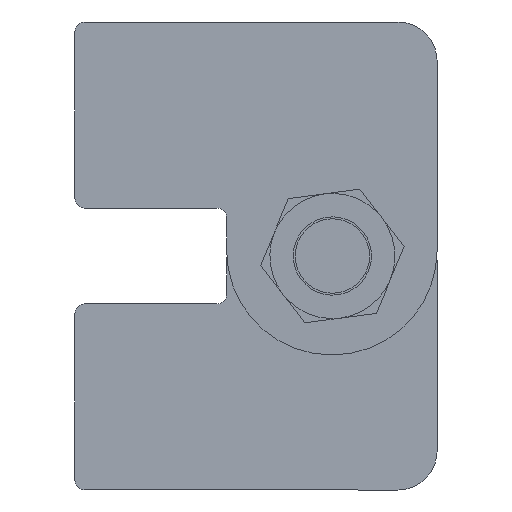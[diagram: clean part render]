
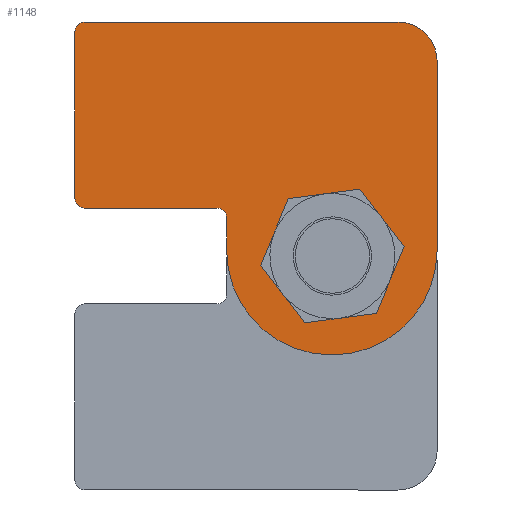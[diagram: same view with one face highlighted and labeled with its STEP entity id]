
A CAD part, left-side view. The second image highlights one B-rep face of the part: STEP entity #1148.
In plain terms, the highlighted planar face has unit normal (-1, 0, 0).
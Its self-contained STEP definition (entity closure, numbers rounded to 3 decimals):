
#30 = ORIENTED_EDGE ( 'NONE', *, *, #890, .F. ) ;
#60 = AXIS2_PLACEMENT_3D ( 'NONE', #384, #2375, #2105 ) ;
#66 = VERTEX_POINT ( 'NONE', #826 ) ;
#99 = CARTESIAN_POINT ( 'NONE',  ( -33., 21.5, -10.5 ) ) ;
#109 = LINE ( 'NONE', #771, #1881 ) ;
#163 = DIRECTION ( 'NONE',  ( 0., 0., -1. ) ) ;
#174 = VERTEX_POINT ( 'NONE', #343 ) ;
#202 = VERTEX_POINT ( 'NONE', #2101 ) ;
#278 = DIRECTION ( 'NONE',  ( 0., 0., -1. ) ) ;
#307 = EDGE_CURVE ( 'NONE', #3052, #174, #2241, .T. ) ;
#318 = ORIENTED_EDGE ( 'NONE', *, *, #1035, .T. ) ;
#335 = EDGE_CURVE ( 'NONE', #3291, #1746, #398, .T. ) ;
#343 = CARTESIAN_POINT ( 'NONE',  ( -33., 36., 9.5 ) ) ;
#366 = ORIENTED_EDGE ( 'NONE', *, *, #3230, .F. ) ;
#378 = EDGE_CURVE ( 'NONE', #1626, #1900, #109, .T. ) ;
#384 = CARTESIAN_POINT ( 'NONE',  ( -33., 10.8, -13.8 ) ) ;
#398 = LINE ( 'NONE', #3319, #2371 ) ;
#529 = ORIENTED_EDGE ( 'NONE', *, *, #1610, .F. ) ;
#537 = DIRECTION ( 'NONE',  ( 1., 0., 0. ) ) ;
#538 = EDGE_CURVE ( 'NONE', #202, #2317, #3701, .T. ) ;
#540 = VERTEX_POINT ( 'NONE', #3716 ) ;
#594 = CARTESIAN_POINT ( 'NONE',  ( -33., 0., 5.5 ) ) ;
#624 = AXIS2_PLACEMENT_3D ( 'NONE', #711, #1888, #163 ) ;
#627 = CIRCLE ( 'NONE', #806, 1. ) ;
#639 = VERTEX_POINT ( 'NONE', #1139 ) ;
#681 = CARTESIAN_POINT ( 'NONE',  ( -33., 10.7, -24.5 ) ) ;
#711 = CARTESIAN_POINT ( 'NONE',  ( -33., 36., 8.5 ) ) ;
#717 = CARTESIAN_POINT ( 'NONE',  ( -33., 37., 8.5 ) ) ;
#739 = CARTESIAN_POINT ( 'NONE',  ( -33., 22.5, -9.5 ) ) ;
#771 = CARTESIAN_POINT ( 'NONE',  ( -33., 21.5, -10.5 ) ) ;
#806 = AXIS2_PLACEMENT_3D ( 'NONE', #1780, #1553, #2718 ) ;
#821 = DIRECTION ( 'NONE',  ( 0., 0., -1. ) ) ;
#826 = CARTESIAN_POINT ( 'NONE',  ( -33., 10.7, -9.9 ) ) ;
#830 = DIRECTION ( 'NONE',  ( 0., 0., 1. ) ) ;
#861 = LINE ( 'NONE', #594, #1172 ) ;
#890 = EDGE_CURVE ( 'NONE', #174, #3669, #2534, .T. ) ;
#901 = CARTESIAN_POINT ( 'NONE',  ( -33., 10.7, -14.4 ) ) ;
#1021 = ORIENTED_EDGE ( 'NONE', *, *, #1284, .F. ) ;
#1028 = DIRECTION ( 'NONE',  ( 0., 1., 0. ) ) ;
#1035 = EDGE_CURVE ( 'NONE', #3240, #66, #3523, .T. ) ;
#1038 = CARTESIAN_POINT ( 'NONE',  ( -33., 4., 5.5 ) ) ;
#1139 = CARTESIAN_POINT ( 'NONE',  ( -33., 0., 5.5 ) ) ;
#1148 = ADVANCED_FACE ( 'NONE', ( #2407, #1550 ), #1793, .T. ) ;
#1172 = VECTOR ( 'NONE', #821, 1000. ) ;
#1257 = CARTESIAN_POINT ( 'NONE',  ( -33., 10.7, -18.9 ) ) ;
#1284 = EDGE_CURVE ( 'NONE', #3669, #639, #1471, .T. ) ;
#1451 = ORIENTED_EDGE ( 'NONE', *, *, #538, .F. ) ;
#1471 = CIRCLE ( 'NONE', #3589, 4. ) ;
#1502 = CARTESIAN_POINT ( 'NONE',  ( -33., 37., 8.5 ) ) ;
#1508 = CARTESIAN_POINT ( 'NONE',  ( -33., 10.7, -13.8 ) ) ;
#1545 = CARTESIAN_POINT ( 'NONE',  ( -33., 21.5, -13.8 ) ) ;
#1550 = FACE_BOUND ( 'NONE', #1578, .T. ) ;
#1553 = DIRECTION ( 'NONE',  ( 1., 0., 0. ) ) ;
#1559 = ORIENTED_EDGE ( 'NONE', *, *, #3092, .F. ) ;
#1568 = AXIS2_PLACEMENT_3D ( 'NONE', #3094, #537, #278 ) ;
#1578 = EDGE_LOOP ( 'NONE', ( #3287, #318 ) ) ;
#1605 = DIRECTION ( 'NONE',  ( 0., 0., 1. ) ) ;
#1610 = EDGE_CURVE ( 'NONE', #2317, #540, #2727, .T. ) ;
#1620 = CARTESIAN_POINT ( 'NONE',  ( -33., 36., 9.5 ) ) ;
#1626 = VERTEX_POINT ( 'NONE', #1545 ) ;
#1643 = DIRECTION ( 'NONE',  ( 1., 0., 0. ) ) ;
#1676 = CIRCLE ( 'NONE', #60, 10.7 ) ;
#1681 = ORIENTED_EDGE ( 'NONE', *, *, #307, .F. ) ;
#1746 = VERTEX_POINT ( 'NONE', #2509 ) ;
#1769 = VECTOR ( 'NONE', #2778, 1000. ) ;
#1778 = CIRCLE ( 'NONE', #2928, 1. ) ;
#1780 = CARTESIAN_POINT ( 'NONE',  ( -33., 36., -8.5 ) ) ;
#1793 = PLANE ( 'NONE',  #2258 ) ;
#1848 = DIRECTION ( 'NONE',  ( -1., 0., 0. ) ) ;
#1851 = CARTESIAN_POINT ( 'NONE',  ( -33., 4., 9.5 ) ) ;
#1871 = LINE ( 'NONE', #717, #3448 ) ;
#1881 = VECTOR ( 'NONE', #1605, 1000. ) ;
#1888 = DIRECTION ( 'NONE',  ( 1., 0., 0. ) ) ;
#1890 = AXIS2_PLACEMENT_3D ( 'NONE', #901, #3472, #2837 ) ;
#1900 = VERTEX_POINT ( 'NONE', #99 ) ;
#2101 = CARTESIAN_POINT ( 'NONE',  ( -33., 0., -13.8 ) ) ;
#2105 = DIRECTION ( 'NONE',  ( 0., 0., -1. ) ) ;
#2138 = CIRCLE ( 'NONE', #1568, 4.5 ) ;
#2170 = DIRECTION ( 'NONE',  ( 1., 0., 0. ) ) ;
#2237 = EDGE_CURVE ( 'NONE', #1900, #3291, #1778, .T. ) ;
#2241 = CIRCLE ( 'NONE', #624, 1. ) ;
#2258 = AXIS2_PLACEMENT_3D ( 'NONE', #1508, #1848, #2667 ) ;
#2260 = DIRECTION ( 'NONE',  ( -1., 0., 0. ) ) ;
#2317 = VERTEX_POINT ( 'NONE', #2545 ) ;
#2371 = VECTOR ( 'NONE', #1028, 1000. ) ;
#2375 = DIRECTION ( 'NONE',  ( 1., 0., 0. ) ) ;
#2380 = VERTEX_POINT ( 'NONE', #3679 ) ;
#2383 = EDGE_CURVE ( 'NONE', #639, #202, #861, .T. ) ;
#2398 = ORIENTED_EDGE ( 'NONE', *, *, #3595, .F. ) ;
#2407 = FACE_OUTER_BOUND ( 'NONE', #3430, .T. ) ;
#2470 = EDGE_CURVE ( 'NONE', #66, #3240, #2138, .T. ) ;
#2509 = CARTESIAN_POINT ( 'NONE',  ( -33., 36., -9.5 ) ) ;
#2534 = LINE ( 'NONE', #1620, #1769 ) ;
#2545 = CARTESIAN_POINT ( 'NONE',  ( -33., 10.7, -24.5 ) ) ;
#2613 = ORIENTED_EDGE ( 'NONE', *, *, #335, .F. ) ;
#2616 = AXIS2_PLACEMENT_3D ( 'NONE', #3145, #1643, #830 ) ;
#2667 = DIRECTION ( 'NONE',  ( 0., 0., 1. ) ) ;
#2687 = DIRECTION ( 'NONE',  ( 0., 1., 0. ) ) ;
#2718 = DIRECTION ( 'NONE',  ( 0., 0., -1. ) ) ;
#2727 = LINE ( 'NONE', #681, #3330 ) ;
#2776 = DIRECTION ( 'NONE',  ( 0., 0., 1. ) ) ;
#2778 = DIRECTION ( 'NONE',  ( 0., -1., 0. ) ) ;
#2809 = CARTESIAN_POINT ( 'NONE',  ( -33., 22.5, -10.5 ) ) ;
#2837 = DIRECTION ( 'NONE',  ( 0., 0., -1. ) ) ;
#2928 = AXIS2_PLACEMENT_3D ( 'NONE', #2809, #2260, #3071 ) ;
#3052 = VERTEX_POINT ( 'NONE', #1502 ) ;
#3058 = ORIENTED_EDGE ( 'NONE', *, *, #2237, .F. ) ;
#3071 = DIRECTION ( 'NONE',  ( 0., 0., 1. ) ) ;
#3092 = EDGE_CURVE ( 'NONE', #540, #1626, #1676, .T. ) ;
#3094 = CARTESIAN_POINT ( 'NONE',  ( -33., 10.7, -14.4 ) ) ;
#3145 = CARTESIAN_POINT ( 'NONE',  ( -33., 10.7, -13.8 ) ) ;
#3213 = ORIENTED_EDGE ( 'NONE', *, *, #2383, .F. ) ;
#3230 = EDGE_CURVE ( 'NONE', #2380, #3052, #1871, .T. ) ;
#3240 = VERTEX_POINT ( 'NONE', #1257 ) ;
#3287 = ORIENTED_EDGE ( 'NONE', *, *, #2470, .T. ) ;
#3291 = VERTEX_POINT ( 'NONE', #739 ) ;
#3319 = CARTESIAN_POINT ( 'NONE',  ( -33., 36., -9.5 ) ) ;
#3330 = VECTOR ( 'NONE', #2687, 1000. ) ;
#3430 = EDGE_LOOP ( 'NONE', ( #1451, #3213, #1021, #30, #1681, #366, #2398, #2613, #3058, #3515, #1559, #529 ) ) ;
#3448 = VECTOR ( 'NONE', #3597, 1000. ) ;
#3472 = DIRECTION ( 'NONE',  ( 1., 0., 0. ) ) ;
#3515 = ORIENTED_EDGE ( 'NONE', *, *, #378, .F. ) ;
#3523 = CIRCLE ( 'NONE', #1890, 4.5 ) ;
#3589 = AXIS2_PLACEMENT_3D ( 'NONE', #1038, #2170, #2776 ) ;
#3595 = EDGE_CURVE ( 'NONE', #1746, #2380, #627, .T. ) ;
#3597 = DIRECTION ( 'NONE',  ( 0., 0., 1. ) ) ;
#3669 = VERTEX_POINT ( 'NONE', #1851 ) ;
#3679 = CARTESIAN_POINT ( 'NONE',  ( -33., 37., -8.5 ) ) ;
#3701 = CIRCLE ( 'NONE', #2616, 10.7 ) ;
#3716 = CARTESIAN_POINT ( 'NONE',  ( -33., 10.8, -24.5 ) ) ;
